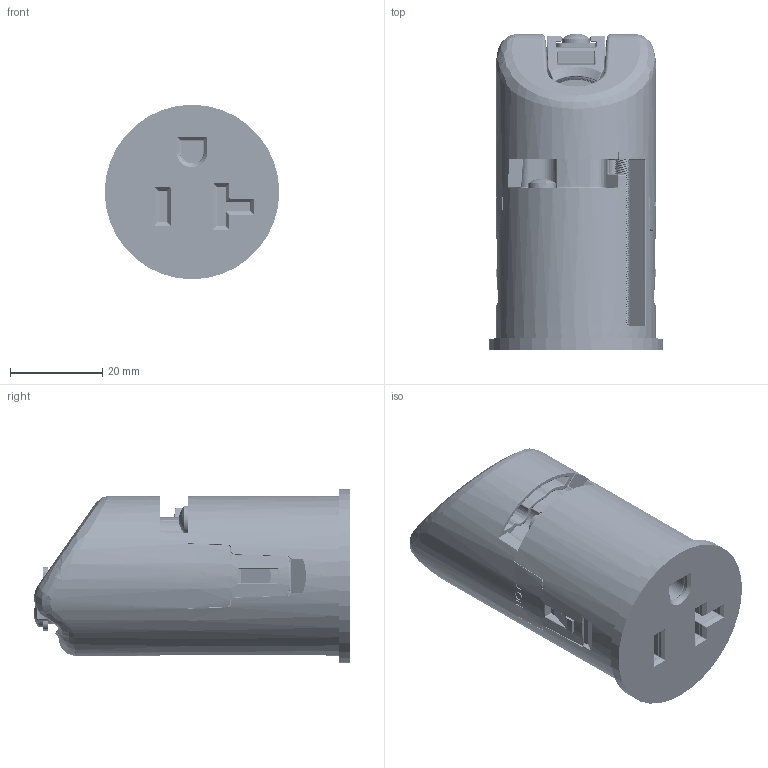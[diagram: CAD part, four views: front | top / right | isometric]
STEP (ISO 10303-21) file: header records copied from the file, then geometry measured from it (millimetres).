
FILE_DESCRIPTION((''),'2;1');
FILE_NAME('A1440657_ASM','2025-08-22T11:42:11',('FDR'),(''),'CREO PARAMETRIC BY PTC INC, 2023494','CREO PARAMETRIC BY PTC INC, 2023494','');
FILE_SCHEMA(('AP242_MANAGED_MODEL_BASED_3D_ENGINEERING_MIM_LF { 1 0 10303 442 1 1 4 }'));
Products named in the file (10): A1493663; A1400703; A1440665; A1413233; A1442174; A1443147; A1443121; A1448466; A1448113_ASM; A1440657_ASM
Assembly tree (11 placements, depth 3):
  A1440657_ASM
    A1493663
    A1400703  x2
    A1440665
    A1413233  x2
    A1448113_ASM
      A1442174
      A1443147
      A1443121
      A1448466
Bounding box: 37.9 x 68.69 x 37.9 mm (x, y, z)
Volume: 44325.4 mm3; surface area: 26929.1 mm2
Topology: 11 solids, 18 shells, 4102 faces, 13194 edges, 9443 vertices
Faces by surface type: cylinder 1161, plane 1078, bspline 755, cone 360, extrusion 339, torus 226, sphere 183
Entity records: 245279 total; most frequent: CARTESIAN_POINT 84347, ORIENTED_EDGE 17546, DIRECTION 16226, PRESENTATION_STYLE_ASSIGNMENT 15399, STYLED_ITEM 12004, CURVE_STYLE 11974, EDGE_CURVE 8810, VECTOR 5612
